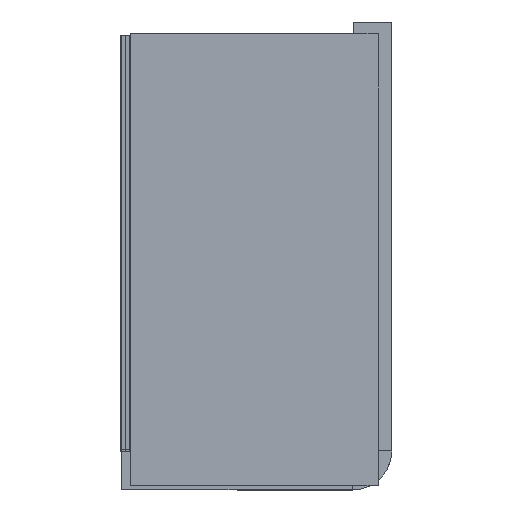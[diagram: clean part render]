
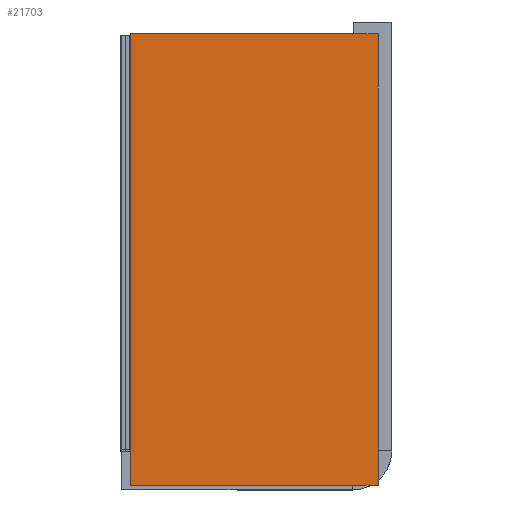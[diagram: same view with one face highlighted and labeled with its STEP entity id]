
A CAD part, left-side view. The second image highlights one B-rep face of the part: STEP entity #21703.
In plain terms, the highlighted planar face has unit normal (-1, 0, 0) as drawn and (0, 0, 1) by its records, which use the part's own axes.
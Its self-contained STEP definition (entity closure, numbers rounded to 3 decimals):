
#21603=CARTESIAN_POINT('Vertex',(11.793,6.46,2.)) ;
#21606=CARTESIAN_POINT('Line Origine',(11.793,0.,2.)) ;
#21610=CARTESIAN_POINT('Vertex',(11.793,-6.46,2.)) ;
#21665=CARTESIAN_POINT('Vertex',(-11.793,6.46,2.)) ;
#21668=CARTESIAN_POINT('Line Origine',(0.,6.46,2.)) ;
#21680=CARTESIAN_POINT('Axis2P3D Location',(0.,0.,2.)) ;
#21685=CARTESIAN_POINT('Line Origine',(-11.793,0.,2.)) ;
#21689=CARTESIAN_POINT('Vertex',(-11.793,-6.46,2.)) ;
#21692=CARTESIAN_POINT('Line Origine',(0.,-6.46,2.)) ;
#21607=DIRECTION('Vector Direction',(0.,1.,0.)) ;
#21669=DIRECTION('Vector Direction',(-1.,0.,0.)) ;
#21681=DIRECTION('Axis2P3D Direction',(0.,0.,1.)) ;
#21682=DIRECTION('Axis2P3D XDirection',(1.,0.,0.)) ;
#21686=DIRECTION('Vector Direction',(0.,1.,0.)) ;
#21693=DIRECTION('Vector Direction',(-1.,0.,0.)) ;
#21683=AXIS2_PLACEMENT_3D('Plane Axis2P3D',#21680,#21681,#21682) ;
#21698=ORIENTED_EDGE('',*,*,#21612,.T.) ;
#21699=ORIENTED_EDGE('',*,*,#21672,.T.) ;
#21700=ORIENTED_EDGE('',*,*,#21691,.F.) ;
#21701=ORIENTED_EDGE('',*,*,#21696,.F.) ;
#21608=VECTOR('Line Direction',#21607,0.039) ;
#21670=VECTOR('Line Direction',#21669,0.039) ;
#21687=VECTOR('Line Direction',#21686,0.039) ;
#21694=VECTOR('Line Direction',#21693,0.039) ;
#21703=ADVANCED_FACE('Boss-Extrude1',(#21702),#21684,.T.) ;
#21612=EDGE_CURVE('',#21611,#21604,#21609,.T.) ;
#21672=EDGE_CURVE('',#21604,#21666,#21671,.T.) ;
#21691=EDGE_CURVE('',#21690,#21666,#21688,.T.) ;
#21696=EDGE_CURVE('',#21611,#21690,#21695,.T.) ;
#21697=EDGE_LOOP('',(#21698,#21699,#21700,#21701)) ;
#21702=FACE_OUTER_BOUND('',#21697,.T.) ;
#21609=LINE('Line',#21606,#21608) ;
#21671=LINE('Line',#21668,#21670) ;
#21688=LINE('Line',#21685,#21687) ;
#21695=LINE('Line',#21692,#21694) ;
#21684=PLANE('',#21683) ;
#21604=VERTEX_POINT('',#21603) ;
#21611=VERTEX_POINT('',#21610) ;
#21666=VERTEX_POINT('',#21665) ;
#21690=VERTEX_POINT('',#21689) ;
